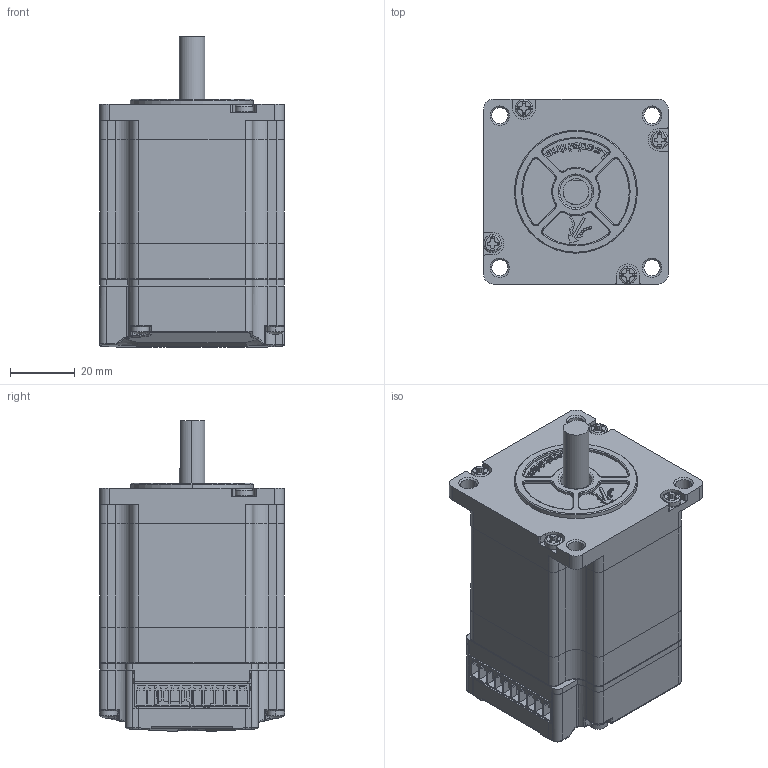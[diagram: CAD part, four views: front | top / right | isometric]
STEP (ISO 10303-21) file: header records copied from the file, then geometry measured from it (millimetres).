
FILE_DESCRIPTION((''),'2;1');
FILE_NAME('ICL57CM12C-B15_ASM','2022-01-13T',('gngxm10'),(''),'PRO/ENGINEER BY PARAMETRIC TECHNOLOGY CORPORATION, 2015240','PRO/ENGINEER BY PARAMETRIC TECHNOLOGY CORPORATION, 2015240','');
FILE_SCHEMA(('AUTOMOTIVE_DESIGN { 1 2 10303 214 0 1 1 1 }'));
Products named in the file (26): DG57HSD-005-S06; PRT0006; PRT0007; PRT0008; ASM0003_ASM; PRT0009; ASM0004_ASM; PRT0010; PRT0011; ASM0002_ASM; 222_ASM; ZJ_ICL57_4; PCB_ICL57_4; HEADER_2_0_4X_1; 1_27CB_1; 200S_10P_1; 2068320401_1; PCB_ICL57_ASM_2_ASM_ASM_ASM_ASM; ____-3-6_1; BREP_2_1; AL_ICL57_22_14; PRT0003_5; ASM_ICL57_ASM_19_ASM_ASM_ASM_ASM; ICL57_ASM_ASM; ICL57-23_V2_0__3D_2__ASM; ICL57CM12C-B15_ASM
Assembly tree (31 placements, depth 6):
  ICL57CM12C-B15_ASM
    222_ASM
      ASM0002_ASM
        DG57HSD-005-S06
        ASM0003_ASM
          PRT0006
          PRT0007
          PRT0008
        ASM0004_ASM
          PRT0009
        PRT0010  x4
        PRT0011
    ICL57-23_V2_0__3D_2__ASM
      ICL57_ASM_ASM
        ASM_ICL57_ASM_19_ASM_ASM_ASM_ASM
          ZJ_ICL57_4
          PCB_ICL57_ASM_2_ASM_ASM_ASM_ASM
            PCB_ICL57_4
            HEADER_2_0_4X_1
            1_27CB_1
            200S_10P_1
            2068320401_1
          ____-3-6_1  x4
          BREP_2_1
          AL_ICL57_22_14
          PRT0003_5
Bounding box: 57.29 x 57.34 x 96.34 mm (x, y, z)
Volume: 109698.3 mm3; surface area: 87569.4 mm2
Topology: 23 solids, 23 shells, 3945 faces, 10071 edges, 6267 vertices
Faces by surface type: plane 1537, cone 1428, cylinder 738, torus 101, extrusion 84, bspline 40, sphere 17
Entity records: 103702 total; most frequent: CARTESIAN_POINT 19545, ORIENTED_EDGE 15010, DIRECTION 14594, EDGE_CURVE 7505, VECTOR 4982, LINE 4898, VERTEX_POINT 4848, AXIS2_PLACEMENT_3D 4806
